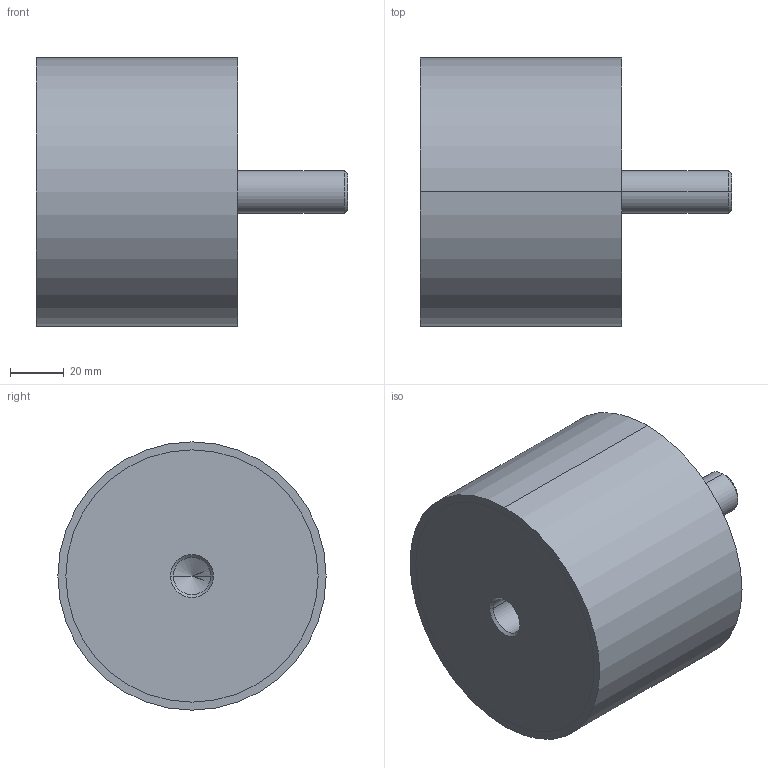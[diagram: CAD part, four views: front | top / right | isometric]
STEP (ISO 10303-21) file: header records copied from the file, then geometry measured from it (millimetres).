
FILE_DESCRIPTION (( 'STEP AP214' ), '1' );
FILE_NAME ('351-100-75-M16-ES-40.step', '2025-07-23T10:00:02', ( '' ), ( '' ), 'SwSTEP 2.0', 'SolidWorks 2022', '' );
FILE_SCHEMA (( 'AUTOMOTIVE_DESIGN' ));
Length unit declared in the file: millimetre
Products named in the file (1): 351-100-75-M16-ES-40
Bounding box: 116 x 100 x 100 mm (x, y, z)
Volume: 594204.3 mm3; surface area: 42065.4 mm2
Topology: 1 solids, 1 shells, 24 faces, 48 edges, 29 vertices
Faces by surface type: cylinder 12, cone 6, plane 6
Entity records: 740 total; most frequent: DIRECTION 124, CARTESIAN_POINT 100, ORIENTED_EDGE 92, AXIS2_PLACEMENT_3D 53, EDGE_CURVE 46, VERTEX_POINT 29, EDGE_LOOP 29, CIRCLE 28
